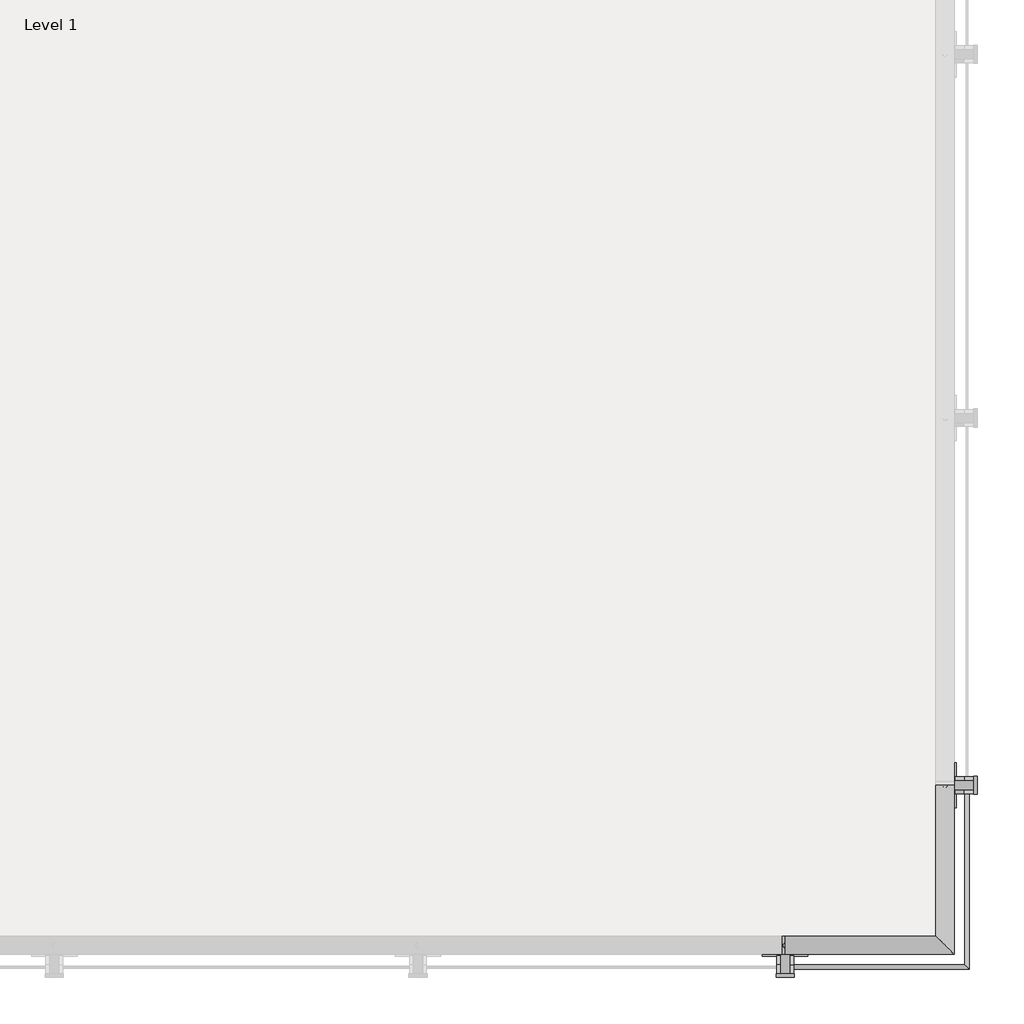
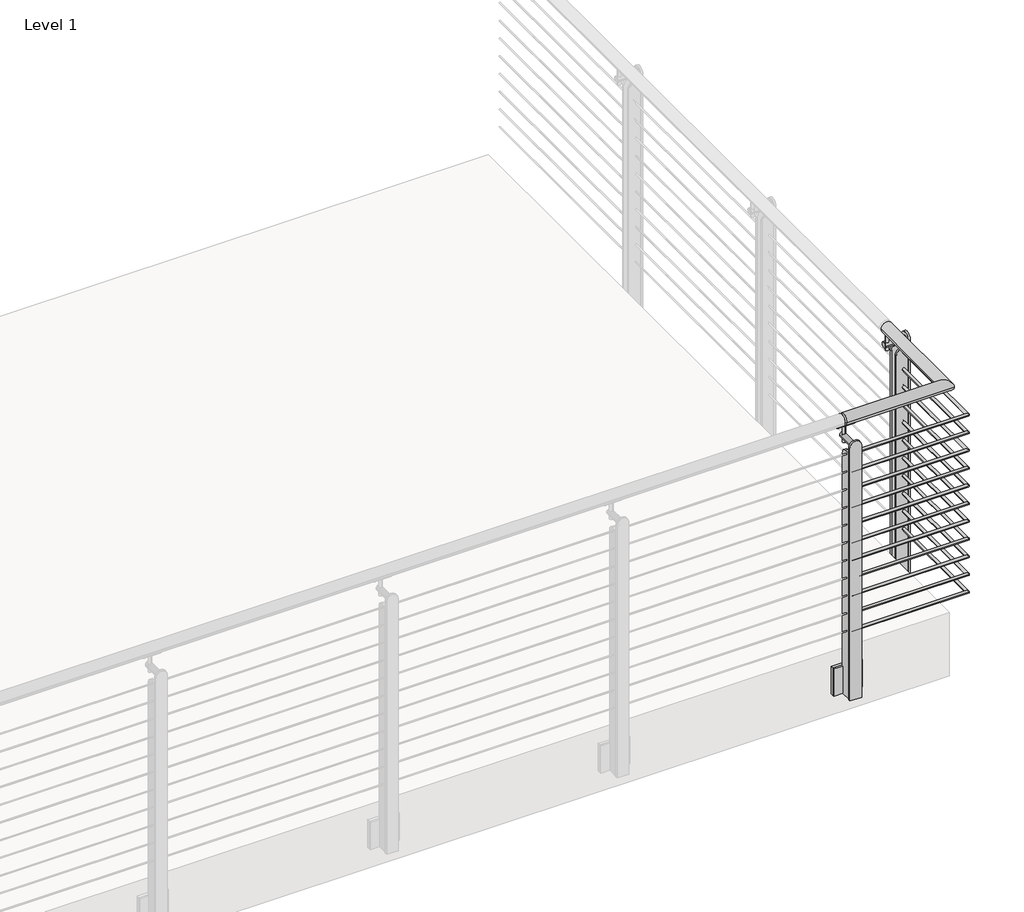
# One storey, part 2 of 9: 1 railing.
"""IFC4 building model written with IfcOpenShell, lengths in millimetres."""

from ifc_helpers import new_model, si_unit, point, frame, frame_2d, origin, place, context, project, spatial, polyline, circle_curve, ellipse_curve, trimmed, segment, composite_curve, outline, extrude, element, save
from ifc_brep_helpers import plane_surface, cylinder_surface, advanced_brep

model = new_model("IFC4")

# Units and contexts
model_context = context("Model", 3, world=origin())
ifc_project = project(units=[si_unit("LENGTHUNIT", "METRE", prefix="MILLI")], contexts=[model_context])

# Site, building, storey
site = spatial("IfcSite", under=ifc_project)
building = spatial("IfcBuilding", under=site)
storey = spatial("IfcBuildingStorey", under=building, Name="Level 1", Elevation=0.0)

# Railing
placement = place(None, origin())
element("IfcRailing", 1, ObjectType="VIVA-TEE-Cable-Fascia Mount-Corner", at=placement, inside=storey, context=model_context, shape_type="SolidModel", body=[
    advanced_brep(
    [(-5390.5882474, -57148.8734719, 1054.1), (-5390.5882474, -57199.6734719, 1054.1), (-4918.1482474, -57199.6734719, 1054.1), (-4968.9482474, -57148.8734719, 1054.1), (-5400.3174408, -57199.6734719, 1054.1), (-5400.3174408, -57148.8734719, 1054.1), (-4918.1482474, -56727.2334719, 1054.1), (-4968.9482474, -56727.2334719, 1054.1)],
    [
        (0, 1, circle_curve(frame((-5390.5882474, -57174.2734719, 1054.1), z_axis=(1.0, 0.0, 0.0), x_axis=(0.0, 1.0, 0.0)), 25.4)),
        (1, 2),
        (2, 3, ellipse_curve(frame((-4943.5482474, -57174.2734719, 1054.1), z_axis=(-0.7071067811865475, -0.7071067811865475, 0.0), x_axis=(-0.7071067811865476, 0.7071067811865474, 0.0)), 35.9210245, 25.4)),
        (3, 0),
        (1, 0, circle_curve(frame((-5390.5882474, -57174.2734719, 1054.1), z_axis=(1.0, 0.0, 0.0), x_axis=(0.0, 1.0, 0.0)), 25.4)),
        (3, 2, ellipse_curve(frame((-4943.5482474, -57174.2734719, 1054.1), z_axis=(-0.7071067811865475, -0.7071067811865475, 0.0), x_axis=(-0.7071067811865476, 0.7071067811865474, 0.0)), 35.9210245, 25.4)),
        (4, 5, circle_curve(frame((-5400.3174408, -57174.2734719, 1054.1), z_axis=(-1.0, 0.0, 0.0), x_axis=(0.0, 1.0, 0.0)), 25.4)),
        (5, 4, circle_curve(frame((-5400.3174408, -57174.2734719, 1054.1), z_axis=(-1.0, 0.0, 0.0), x_axis=(0.0, 1.0, 0.0)), 25.4)),
        (4, 1),
        (0, 5),
        (6, 7, circle_curve(frame((-4943.5482474, -56727.2334719, 1054.1), z_axis=(0.0, 1.0, 0.0), x_axis=(-1.0, 0.0, 0.0)), 25.4)),
        (7, 6, circle_curve(frame((-4943.5482474, -56727.2334719, 1054.1), z_axis=(0.0, 1.0, 0.0), x_axis=(-1.0, 0.0, 0.0)), 25.4)),
        (2, 6),
        (7, 3),
    ],
    [
        cylinder_surface(frame((-5390.5882474, -57174.2734719, 1054.1), z_axis=(-1.0, 0.0, 0.0), x_axis=(0.0, 1.0, 0.0)), 25.4),
        plane_surface(frame((-5400.3174408, -57174.2734719, 1079.5), z_axis=(-1.0, 0.0, 0.0), x_axis=(0.0, 1.0, 0.0))),
        cylinder_surface(frame((-5400.3174408, -57174.2734719, 1054.1), z_axis=(-1.0, 0.0, 0.0), x_axis=(0.0, 1.0, 0.0)), 25.4),
        plane_surface(frame((-4943.5482474, -56727.2334719, 1079.5), z_axis=(0.0, 1.0, 0.0), x_axis=(0.0, 0.0, 1.0))),
        cylinder_surface(frame((-4943.5482474, -57174.2734719, 1054.1), z_axis=(0.0, -1.0, 0.0), x_axis=(-1.0, 0.0, 0.0)), 25.4),
    ],
    [
        (0, [[1, 2, 3, 4]]),
        (0, [[5, -4, 6, -2]]),
        (1, [[7, 8]]),
        (2, [[-7, 9, -1, 10]]),
        (2, [[-8, -10, -5, -9]]),
        (3, [[11, 12]]),
        (4, [[-3, 13, -12, 14]]),
        (4, [[-6, -14, -11, -13]]),
    ],
),
    advanced_brep(
    [(-5390.5882474, -57228.8834719, 933.45), (-5390.5882474, -57241.5834719, 933.45), (-4888.9382474, -57228.8834719, 933.45), (-4876.2382474, -57241.5834719, 933.45), (-4888.9382474, -56727.2334719, 933.45), (-4876.2382474, -56727.2334719, 933.45)],
    [
        (0, 1, circle_curve(frame((-5390.5882474, -57235.2334719, 933.45), z_axis=(-1.0, 0.0, 0.0), x_axis=(0.0, -1.0, 0.0)), 6.35)),
        (1, 0, circle_curve(frame((-5390.5882474, -57235.2334719, 933.45), z_axis=(-1.0, 0.0, 0.0), x_axis=(0.0, -1.0, 0.0)), 6.35)),
        (0, 2),
        (2, 3, ellipse_curve(frame((-4882.5882474, -57235.2334719, 933.45), z_axis=(-0.7071067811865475, -0.7071067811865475, 0.0), x_axis=(-0.7071067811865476, 0.7071067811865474, 0.0)), 8.9802561, 6.35)),
        (3, 1),
        (3, 2, ellipse_curve(frame((-4882.5882474, -57235.2334719, 933.45), z_axis=(-0.7071067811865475, -0.7071067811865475, 0.0), x_axis=(-0.7071067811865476, 0.7071067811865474, 0.0)), 8.9802561, 6.35)),
        (4, 5, circle_curve(frame((-4882.5882474, -56727.2334719, 933.45), z_axis=(0.0, 1.0, 0.0), x_axis=(1.0, 0.0, 0.0)), 6.35)),
        (5, 4, circle_curve(frame((-4882.5882474, -56727.2334719, 933.45), z_axis=(0.0, 1.0, 0.0), x_axis=(1.0, 0.0, 0.0)), 6.35)),
        (2, 4),
        (5, 3),
    ],
    [
        plane_surface(frame((-5390.5882474, -57235.2334719, 939.8), z_axis=(-1.0, 0.0, 0.0), x_axis=(0.0, 1.0, 0.0))),
        cylinder_surface(frame((-5390.5882474, -57235.2334719, 933.45), z_axis=(-1.0, 0.0, 0.0), x_axis=(0.0, -1.0, 0.0)), 6.35),
        plane_surface(frame((-4882.5882474, -56727.2334719, 939.8), z_axis=(0.0, 1.0, 0.0), x_axis=(0.0, 0.0, 1.0))),
        cylinder_surface(frame((-4882.5882474, -57235.2334719, 933.45), z_axis=(0.0, -1.0, 0.0), x_axis=(1.0, 0.0, 0.0)), 6.35),
    ],
    [
        (0, [[1, 2]]),
        (1, [[-1, 3, 4, 5]]),
        (1, [[-2, -5, 6, -3]]),
        (2, [[7, 8]]),
        (3, [[-4, 9, -8, 10]]),
        (3, [[-6, -10, -7, -9]]),
    ],
),
    advanced_brep(
    [(-5390.5882474, -57228.8834719, 850.9), (-5390.5882474, -57241.5834719, 850.9), (-4888.9382474, -57228.8834719, 850.9), (-4876.2382474, -57241.5834719, 850.9), (-4888.9382474, -56727.2334719, 850.9), (-4876.2382474, -56727.2334719, 850.9)],
    [
        (0, 1, circle_curve(frame((-5390.5882474, -57235.2334719, 850.9), z_axis=(-1.0, 0.0, 0.0), x_axis=(0.0, -1.0, 0.0)), 6.35)),
        (1, 0, circle_curve(frame((-5390.5882474, -57235.2334719, 850.9), z_axis=(-1.0, 0.0, 0.0), x_axis=(0.0, -1.0, 0.0)), 6.35)),
        (0, 2),
        (2, 3, ellipse_curve(frame((-4882.5882474, -57235.2334719, 850.9), z_axis=(-0.7071067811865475, -0.7071067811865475, 0.0), x_axis=(-0.7071067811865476, 0.7071067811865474, 0.0)), 8.9802561, 6.35)),
        (3, 1),
        (3, 2, ellipse_curve(frame((-4882.5882474, -57235.2334719, 850.9), z_axis=(-0.7071067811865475, -0.7071067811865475, 0.0), x_axis=(-0.7071067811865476, 0.7071067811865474, 0.0)), 8.9802561, 6.35)),
        (4, 5, circle_curve(frame((-4882.5882474, -56727.2334719, 850.9), z_axis=(0.0, 1.0, 0.0), x_axis=(1.0, 0.0, 0.0)), 6.35)),
        (5, 4, circle_curve(frame((-4882.5882474, -56727.2334719, 850.9), z_axis=(0.0, 1.0, 0.0), x_axis=(1.0, 0.0, 0.0)), 6.35)),
        (2, 4),
        (5, 3),
    ],
    [
        plane_surface(frame((-5390.5882474, -57235.2334719, 857.25), z_axis=(-1.0, 0.0, 0.0), x_axis=(0.0, 1.0, 0.0))),
        cylinder_surface(frame((-5390.5882474, -57235.2334719, 850.9), z_axis=(-1.0, 0.0, 0.0), x_axis=(0.0, -1.0, 0.0)), 6.35),
        plane_surface(frame((-4882.5882474, -56727.2334719, 857.25), z_axis=(0.0, 1.0, 0.0), x_axis=(0.0, 0.0, 1.0))),
        cylinder_surface(frame((-4882.5882474, -57235.2334719, 850.9), z_axis=(0.0, -1.0, 0.0), x_axis=(1.0, 0.0, 0.0)), 6.35),
    ],
    [
        (0, [[1, 2]]),
        (1, [[-1, 3, 4, 5]]),
        (1, [[-2, -5, 6, -3]]),
        (2, [[7, 8]]),
        (3, [[-4, 9, -8, 10]]),
        (3, [[-6, -10, -7, -9]]),
    ],
),
    advanced_brep(
    [(-5390.5882474, -57228.8834719, 768.35), (-5390.5882474, -57241.5834719, 768.35), (-4888.9382474, -57228.8834719, 768.35), (-4876.2382474, -57241.5834719, 768.35), (-4888.9382474, -56727.2334719, 768.35), (-4876.2382474, -56727.2334719, 768.35)],
    [
        (0, 1, circle_curve(frame((-5390.5882474, -57235.2334719, 768.35), z_axis=(-1.0, 0.0, 0.0), x_axis=(0.0, -1.0, 0.0)), 6.35)),
        (1, 0, circle_curve(frame((-5390.5882474, -57235.2334719, 768.35), z_axis=(-1.0, 0.0, 0.0), x_axis=(0.0, -1.0, 0.0)), 6.35)),
        (0, 2),
        (2, 3, ellipse_curve(frame((-4882.5882474, -57235.2334719, 768.35), z_axis=(-0.7071067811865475, -0.7071067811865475, 0.0), x_axis=(-0.7071067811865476, 0.7071067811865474, 0.0)), 8.9802561, 6.35)),
        (3, 1),
        (3, 2, ellipse_curve(frame((-4882.5882474, -57235.2334719, 768.35), z_axis=(-0.7071067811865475, -0.7071067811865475, 0.0), x_axis=(-0.7071067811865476, 0.7071067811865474, 0.0)), 8.9802561, 6.35)),
        (4, 5, circle_curve(frame((-4882.5882474, -56727.2334719, 768.35), z_axis=(0.0, 1.0, 0.0), x_axis=(1.0, 0.0, 0.0)), 6.35)),
        (5, 4, circle_curve(frame((-4882.5882474, -56727.2334719, 768.35), z_axis=(0.0, 1.0, 0.0), x_axis=(1.0, 0.0, 0.0)), 6.35)),
        (2, 4),
        (5, 3),
    ],
    [
        plane_surface(frame((-5390.5882474, -57235.2334719, 774.7), z_axis=(-1.0, 0.0, 0.0), x_axis=(0.0, 1.0, 0.0))),
        cylinder_surface(frame((-5390.5882474, -57235.2334719, 768.35), z_axis=(-1.0, 0.0, 0.0), x_axis=(0.0, -1.0, 0.0)), 6.35),
        plane_surface(frame((-4882.5882474, -56727.2334719, 774.7), z_axis=(0.0, 1.0, 0.0), x_axis=(0.0, 0.0, 1.0))),
        cylinder_surface(frame((-4882.5882474, -57235.2334719, 768.35), z_axis=(0.0, -1.0, 0.0), x_axis=(1.0, 0.0, 0.0)), 6.35),
    ],
    [
        (0, [[1, 2]]),
        (1, [[-1, 3, 4, 5]]),
        (1, [[-2, -5, 6, -3]]),
        (2, [[7, 8]]),
        (3, [[-4, 9, -8, 10]]),
        (3, [[-6, -10, -7, -9]]),
    ],
),
    advanced_brep(
    [(-5390.5882474, -57228.8834719, 685.8), (-5390.5882474, -57241.5834719, 685.8), (-4888.9382474, -57228.8834719, 685.8), (-4876.2382474, -57241.5834719, 685.8), (-4888.9382474, -56727.2334719, 685.8), (-4876.2382474, -56727.2334719, 685.8)],
    [
        (0, 1, circle_curve(frame((-5390.5882474, -57235.2334719, 685.8), z_axis=(-1.0, 0.0, 0.0), x_axis=(0.0, -1.0, 0.0)), 6.35)),
        (1, 0, circle_curve(frame((-5390.5882474, -57235.2334719, 685.8), z_axis=(-1.0, 0.0, 0.0), x_axis=(0.0, -1.0, 0.0)), 6.35)),
        (0, 2),
        (2, 3, ellipse_curve(frame((-4882.5882474, -57235.2334719, 685.8), z_axis=(-0.7071067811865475, -0.7071067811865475, 0.0), x_axis=(-0.7071067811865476, 0.7071067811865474, 0.0)), 8.9802561, 6.35)),
        (3, 1),
        (3, 2, ellipse_curve(frame((-4882.5882474, -57235.2334719, 685.8), z_axis=(-0.7071067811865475, -0.7071067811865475, 0.0), x_axis=(-0.7071067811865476, 0.7071067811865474, 0.0)), 8.9802561, 6.35)),
        (4, 5, circle_curve(frame((-4882.5882474, -56727.2334719, 685.8), z_axis=(0.0, 1.0, 0.0), x_axis=(1.0, 0.0, 0.0)), 6.35)),
        (5, 4, circle_curve(frame((-4882.5882474, -56727.2334719, 685.8), z_axis=(0.0, 1.0, 0.0), x_axis=(1.0, 0.0, 0.0)), 6.35)),
        (2, 4),
        (5, 3),
    ],
    [
        plane_surface(frame((-5390.5882474, -57235.2334719, 692.15), z_axis=(-1.0, 0.0, 0.0), x_axis=(0.0, 1.0, 0.0))),
        cylinder_surface(frame((-5390.5882474, -57235.2334719, 685.8), z_axis=(-1.0, 0.0, 0.0), x_axis=(0.0, -1.0, 0.0)), 6.35),
        plane_surface(frame((-4882.5882474, -56727.2334719, 692.15), z_axis=(0.0, 1.0, 0.0), x_axis=(0.0, 0.0, 1.0))),
        cylinder_surface(frame((-4882.5882474, -57235.2334719, 685.8), z_axis=(0.0, -1.0, 0.0), x_axis=(1.0, 0.0, 0.0)), 6.35),
    ],
    [
        (0, [[1, 2]]),
        (1, [[-1, 3, 4, 5]]),
        (1, [[-2, -5, 6, -3]]),
        (2, [[7, 8]]),
        (3, [[-4, 9, -8, 10]]),
        (3, [[-6, -10, -7, -9]]),
    ],
),
    advanced_brep(
    [(-5390.5882474, -57228.8834719, 603.25), (-5390.5882474, -57241.5834719, 603.25), (-4888.9382474, -57228.8834719, 603.25), (-4876.2382474, -57241.5834719, 603.25), (-4888.9382474, -56727.2334719, 603.25), (-4876.2382474, -56727.2334719, 603.25)],
    [
        (0, 1, circle_curve(frame((-5390.5882474, -57235.2334719, 603.25), z_axis=(-1.0, 0.0, 0.0), x_axis=(0.0, -1.0, 0.0)), 6.35)),
        (1, 0, circle_curve(frame((-5390.5882474, -57235.2334719, 603.25), z_axis=(-1.0, 0.0, 0.0), x_axis=(0.0, -1.0, 0.0)), 6.35)),
        (0, 2),
        (2, 3, ellipse_curve(frame((-4882.5882474, -57235.2334719, 603.25), z_axis=(-0.7071067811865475, -0.7071067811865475, 0.0), x_axis=(-0.7071067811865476, 0.7071067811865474, 0.0)), 8.9802561, 6.35)),
        (3, 1),
        (3, 2, ellipse_curve(frame((-4882.5882474, -57235.2334719, 603.25), z_axis=(-0.7071067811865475, -0.7071067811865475, 0.0), x_axis=(-0.7071067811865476, 0.7071067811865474, 0.0)), 8.9802561, 6.35)),
        (4, 5, circle_curve(frame((-4882.5882474, -56727.2334719, 603.25), z_axis=(0.0, 1.0, 0.0), x_axis=(1.0, 0.0, 0.0)), 6.35)),
        (5, 4, circle_curve(frame((-4882.5882474, -56727.2334719, 603.25), z_axis=(0.0, 1.0, 0.0), x_axis=(1.0, 0.0, 0.0)), 6.35)),
        (2, 4),
        (5, 3),
    ],
    [
        plane_surface(frame((-5390.5882474, -57235.2334719, 609.6), z_axis=(-1.0, 0.0, 0.0), x_axis=(0.0, 1.0, 0.0))),
        cylinder_surface(frame((-5390.5882474, -57235.2334719, 603.25), z_axis=(-1.0, 0.0, 0.0), x_axis=(0.0, -1.0, 0.0)), 6.35),
        plane_surface(frame((-4882.5882474, -56727.2334719, 609.6), z_axis=(0.0, 1.0, 0.0), x_axis=(0.0, 0.0, 1.0))),
        cylinder_surface(frame((-4882.5882474, -57235.2334719, 603.25), z_axis=(0.0, -1.0, 0.0), x_axis=(1.0, 0.0, 0.0)), 6.35),
    ],
    [
        (0, [[1, 2]]),
        (1, [[-1, 3, 4, 5]]),
        (1, [[-2, -5, 6, -3]]),
        (2, [[7, 8]]),
        (3, [[-4, 9, -8, 10]]),
        (3, [[-6, -10, -7, -9]]),
    ],
),
    advanced_brep(
    [(-5390.5882474, -57228.8834719, 520.7), (-5390.5882474, -57241.5834719, 520.7), (-4888.9382474, -57228.8834719, 520.7), (-4876.2382474, -57241.5834719, 520.7), (-4888.9382474, -56727.2334719, 520.7), (-4876.2382474, -56727.2334719, 520.7)],
    [
        (0, 1, circle_curve(frame((-5390.5882474, -57235.2334719, 520.7), z_axis=(-1.0, 0.0, 0.0), x_axis=(0.0, -1.0, 0.0)), 6.35)),
        (1, 0, circle_curve(frame((-5390.5882474, -57235.2334719, 520.7), z_axis=(-1.0, 0.0, 0.0), x_axis=(0.0, -1.0, 0.0)), 6.35)),
        (0, 2),
        (2, 3, ellipse_curve(frame((-4882.5882474, -57235.2334719, 520.7), z_axis=(-0.7071067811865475, -0.7071067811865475, 0.0), x_axis=(-0.7071067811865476, 0.7071067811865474, 0.0)), 8.9802561, 6.35)),
        (3, 1),
        (3, 2, ellipse_curve(frame((-4882.5882474, -57235.2334719, 520.7), z_axis=(-0.7071067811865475, -0.7071067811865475, 0.0), x_axis=(-0.7071067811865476, 0.7071067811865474, 0.0)), 8.9802561, 6.35)),
        (4, 5, circle_curve(frame((-4882.5882474, -56727.2334719, 520.7), z_axis=(0.0, 1.0, 0.0), x_axis=(1.0, 0.0, 0.0)), 6.35)),
        (5, 4, circle_curve(frame((-4882.5882474, -56727.2334719, 520.7), z_axis=(0.0, 1.0, 0.0), x_axis=(1.0, 0.0, 0.0)), 6.35)),
        (2, 4),
        (5, 3),
    ],
    [
        plane_surface(frame((-5390.5882474, -57235.2334719, 527.05), z_axis=(-1.0, 0.0, 0.0), x_axis=(0.0, 1.0, 0.0))),
        cylinder_surface(frame((-5390.5882474, -57235.2334719, 520.7), z_axis=(-1.0, 0.0, 0.0), x_axis=(0.0, -1.0, 0.0)), 6.35),
        plane_surface(frame((-4882.5882474, -56727.2334719, 527.05), z_axis=(0.0, 1.0, 0.0), x_axis=(0.0, 0.0, 1.0))),
        cylinder_surface(frame((-4882.5882474, -57235.2334719, 520.7), z_axis=(0.0, -1.0, 0.0), x_axis=(1.0, 0.0, 0.0)), 6.35),
    ],
    [
        (0, [[1, 2]]),
        (1, [[-1, 3, 4, 5]]),
        (1, [[-2, -5, 6, -3]]),
        (2, [[7, 8]]),
        (3, [[-4, 9, -8, 10]]),
        (3, [[-6, -10, -7, -9]]),
    ],
),
    advanced_brep(
    [(-5390.5882474, -57228.8834719, 438.15), (-5390.5882474, -57241.5834719, 438.15), (-4888.9382474, -57228.8834719, 438.15), (-4876.2382474, -57241.5834719, 438.15), (-4888.9382474, -56727.2334719, 438.15), (-4876.2382474, -56727.2334719, 438.15)],
    [
        (0, 1, circle_curve(frame((-5390.5882474, -57235.2334719, 438.15), z_axis=(-1.0, 0.0, 0.0), x_axis=(0.0, -1.0, 0.0)), 6.35)),
        (1, 0, circle_curve(frame((-5390.5882474, -57235.2334719, 438.15), z_axis=(-1.0, 0.0, 0.0), x_axis=(0.0, -1.0, 0.0)), 6.35)),
        (0, 2),
        (2, 3, ellipse_curve(frame((-4882.5882474, -57235.2334719, 438.15), z_axis=(-0.7071067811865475, -0.7071067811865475, 0.0), x_axis=(-0.7071067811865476, 0.7071067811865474, 0.0)), 8.9802561, 6.35)),
        (3, 1),
        (3, 2, ellipse_curve(frame((-4882.5882474, -57235.2334719, 438.15), z_axis=(-0.7071067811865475, -0.7071067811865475, 0.0), x_axis=(-0.7071067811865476, 0.7071067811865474, 0.0)), 8.9802561, 6.35)),
        (4, 5, circle_curve(frame((-4882.5882474, -56727.2334719, 438.15), z_axis=(0.0, 1.0, 0.0), x_axis=(1.0, 0.0, 0.0)), 6.35)),
        (5, 4, circle_curve(frame((-4882.5882474, -56727.2334719, 438.15), z_axis=(0.0, 1.0, 0.0), x_axis=(1.0, 0.0, 0.0)), 6.35)),
        (2, 4),
        (5, 3),
    ],
    [
        plane_surface(frame((-5390.5882474, -57235.2334719, 444.5), z_axis=(-1.0, 0.0, 0.0), x_axis=(0.0, 1.0, 0.0))),
        cylinder_surface(frame((-5390.5882474, -57235.2334719, 438.15), z_axis=(-1.0, 0.0, 0.0), x_axis=(0.0, -1.0, 0.0)), 6.35),
        plane_surface(frame((-4882.5882474, -56727.2334719, 444.5), z_axis=(0.0, 1.0, 0.0), x_axis=(0.0, 0.0, 1.0))),
        cylinder_surface(frame((-4882.5882474, -57235.2334719, 438.15), z_axis=(0.0, -1.0, 0.0), x_axis=(1.0, 0.0, 0.0)), 6.35),
    ],
    [
        (0, [[1, 2]]),
        (1, [[-1, 3, 4, 5]]),
        (1, [[-2, -5, 6, -3]]),
        (2, [[7, 8]]),
        (3, [[-4, 9, -8, 10]]),
        (3, [[-6, -10, -7, -9]]),
    ],
),
    advanced_brep(
    [(-5390.5882474, -57228.8834719, 355.6), (-5390.5882474, -57241.5834719, 355.6), (-4888.9382474, -57228.8834719, 355.6), (-4876.2382474, -57241.5834719, 355.6), (-4888.9382474, -56727.2334719, 355.6), (-4876.2382474, -56727.2334719, 355.6)],
    [
        (0, 1, circle_curve(frame((-5390.5882474, -57235.2334719, 355.6), z_axis=(-1.0, 0.0, 0.0), x_axis=(0.0, -1.0, 0.0)), 6.35)),
        (1, 0, circle_curve(frame((-5390.5882474, -57235.2334719, 355.6), z_axis=(-1.0, 0.0, 0.0), x_axis=(0.0, -1.0, 0.0)), 6.35)),
        (0, 2),
        (2, 3, ellipse_curve(frame((-4882.5882474, -57235.2334719, 355.6), z_axis=(-0.7071067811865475, -0.7071067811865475, 0.0), x_axis=(-0.7071067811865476, 0.7071067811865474, 0.0)), 8.9802561, 6.35)),
        (3, 1),
        (3, 2, ellipse_curve(frame((-4882.5882474, -57235.2334719, 355.6), z_axis=(-0.7071067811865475, -0.7071067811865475, 0.0), x_axis=(-0.7071067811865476, 0.7071067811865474, 0.0)), 8.9802561, 6.35)),
        (4, 5, circle_curve(frame((-4882.5882474, -56727.2334719, 355.6), z_axis=(0.0, 1.0, 0.0), x_axis=(1.0, 0.0, 0.0)), 6.35)),
        (5, 4, circle_curve(frame((-4882.5882474, -56727.2334719, 355.6), z_axis=(0.0, 1.0, 0.0), x_axis=(1.0, 0.0, 0.0)), 6.35)),
        (2, 4),
        (5, 3),
    ],
    [
        plane_surface(frame((-5390.5882474, -57235.2334719, 361.95), z_axis=(-1.0, 0.0, 0.0), x_axis=(0.0, 1.0, 0.0))),
        cylinder_surface(frame((-5390.5882474, -57235.2334719, 355.6), z_axis=(-1.0, 0.0, 0.0), x_axis=(0.0, -1.0, 0.0)), 6.35),
        plane_surface(frame((-4882.5882474, -56727.2334719, 361.95), z_axis=(0.0, 1.0, 0.0), x_axis=(0.0, 0.0, 1.0))),
        cylinder_surface(frame((-4882.5882474, -57235.2334719, 355.6), z_axis=(0.0, -1.0, 0.0), x_axis=(1.0, 0.0, 0.0)), 6.35),
    ],
    [
        (0, [[1, 2]]),
        (1, [[-1, 3, 4, 5]]),
        (1, [[-2, -5, 6, -3]]),
        (2, [[7, 8]]),
        (3, [[-4, 9, -8, 10]]),
        (3, [[-6, -10, -7, -9]]),
    ],
),
    advanced_brep(
    [(-5390.5882474, -57228.8834719, 273.05), (-5390.5882474, -57241.5834719, 273.05), (-4888.9382474, -57228.8834719, 273.05), (-4876.2382474, -57241.5834719, 273.05), (-4888.9382474, -56727.2334719, 273.05), (-4876.2382474, -56727.2334719, 273.05)],
    [
        (0, 1, circle_curve(frame((-5390.5882474, -57235.2334719, 273.05), z_axis=(-1.0, 0.0, 0.0), x_axis=(0.0, -1.0, 0.0)), 6.35)),
        (1, 0, circle_curve(frame((-5390.5882474, -57235.2334719, 273.05), z_axis=(-1.0, 0.0, 0.0), x_axis=(0.0, -1.0, 0.0)), 6.35)),
        (0, 2),
        (2, 3, ellipse_curve(frame((-4882.5882474, -57235.2334719, 273.05), z_axis=(-0.7071067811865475, -0.7071067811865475, 0.0), x_axis=(-0.7071067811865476, 0.7071067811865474, 0.0)), 8.9802561, 6.35)),
        (3, 1),
        (3, 2, ellipse_curve(frame((-4882.5882474, -57235.2334719, 273.05), z_axis=(-0.7071067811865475, -0.7071067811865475, 0.0), x_axis=(-0.7071067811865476, 0.7071067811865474, 0.0)), 8.9802561, 6.35)),
        (4, 5, circle_curve(frame((-4882.5882474, -56727.2334719, 273.05), z_axis=(0.0, 1.0, 0.0), x_axis=(1.0, 0.0, 0.0)), 6.35)),
        (5, 4, circle_curve(frame((-4882.5882474, -56727.2334719, 273.05), z_axis=(0.0, 1.0, 0.0), x_axis=(1.0, 0.0, 0.0)), 6.35)),
        (2, 4),
        (5, 3),
    ],
    [
        plane_surface(frame((-5390.5882474, -57235.2334719, 279.4), z_axis=(-1.0, 0.0, 0.0), x_axis=(0.0, 1.0, 0.0))),
        cylinder_surface(frame((-5390.5882474, -57235.2334719, 273.05), z_axis=(-1.0, 0.0, 0.0), x_axis=(0.0, -1.0, 0.0)), 6.35),
        plane_surface(frame((-4882.5882474, -56727.2334719, 279.4), z_axis=(0.0, 1.0, 0.0), x_axis=(0.0, 0.0, 1.0))),
        cylinder_surface(frame((-4882.5882474, -57235.2334719, 273.05), z_axis=(0.0, -1.0, 0.0), x_axis=(1.0, 0.0, 0.0)), 6.35),
    ],
    [
        (0, [[1, 2]]),
        (1, [[-1, 3, 4, 5]]),
        (1, [[-2, -5, 6, -3]]),
        (2, [[7, 8]]),
        (3, [[-4, 9, -8, 10]]),
        (3, [[-6, -10, -7, -9]]),
    ],
),
    advanced_brep(
    [(-5390.5882474, -57228.8834719, 190.5), (-5390.5882474, -57241.5834719, 190.5), (-4888.9382474, -57228.8834719, 190.5), (-4876.2382474, -57241.5834719, 190.5), (-4888.9382474, -56727.2334719, 190.5), (-4876.2382474, -56727.2334719, 190.5)],
    [
        (0, 1, circle_curve(frame((-5390.5882474, -57235.2334719, 190.5), z_axis=(-1.0, 0.0, 0.0), x_axis=(0.0, -1.0, 0.0)), 6.35)),
        (1, 0, circle_curve(frame((-5390.5882474, -57235.2334719, 190.5), z_axis=(-1.0, 0.0, 0.0), x_axis=(0.0, -1.0, 0.0)), 6.35)),
        (0, 2),
        (2, 3, ellipse_curve(frame((-4882.5882474, -57235.2334719, 190.5), z_axis=(-0.7071067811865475, -0.7071067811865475, 0.0), x_axis=(-0.7071067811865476, 0.7071067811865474, 0.0)), 8.9802561, 6.35)),
        (3, 1),
        (3, 2, ellipse_curve(frame((-4882.5882474, -57235.2334719, 190.5), z_axis=(-0.7071067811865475, -0.7071067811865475, 0.0), x_axis=(-0.7071067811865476, 0.7071067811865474, 0.0)), 8.9802561, 6.35)),
        (4, 5, circle_curve(frame((-4882.5882474, -56727.2334719, 190.5), z_axis=(0.0, 1.0, 0.0), x_axis=(1.0, 0.0, 0.0)), 6.35)),
        (5, 4, circle_curve(frame((-4882.5882474, -56727.2334719, 190.5), z_axis=(0.0, 1.0, 0.0), x_axis=(1.0, 0.0, 0.0)), 6.35)),
        (2, 4),
        (5, 3),
    ],
    [
        plane_surface(frame((-5390.5882474, -57235.2334719, 196.85), z_axis=(-1.0, 0.0, 0.0), x_axis=(0.0, 1.0, 0.0))),
        cylinder_surface(frame((-5390.5882474, -57235.2334719, 190.5), z_axis=(-1.0, 0.0, 0.0), x_axis=(0.0, -1.0, 0.0)), 6.35),
        plane_surface(frame((-4882.5882474, -56727.2334719, 196.85), z_axis=(0.0, 1.0, 0.0), x_axis=(0.0, 0.0, 1.0))),
        cylinder_surface(frame((-4882.5882474, -57235.2334719, 190.5), z_axis=(0.0, -1.0, 0.0), x_axis=(1.0, 0.0, 0.0)), 6.35),
    ],
    [
        (0, [[1, 2]]),
        (1, [[-1, 3, 4, 5]]),
        (1, [[-2, -5, 6, -3]]),
        (2, [[7, 8]]),
        (3, [[-4, 9, -8, 10]]),
        (3, [[-6, -10, -7, -9]]),
    ],
),
    advanced_brep(
    [(-5390.5882474, -57228.8834719, 107.95), (-5390.5882474, -57241.5834719, 107.95), (-4888.9382474, -57228.8834719, 107.95), (-4876.2382474, -57241.5834719, 107.95), (-4888.9382474, -56727.2334719, 107.95), (-4876.2382474, -56727.2334719, 107.95)],
    [
        (0, 1, circle_curve(frame((-5390.5882474, -57235.2334719, 107.95), z_axis=(-1.0, 0.0, 0.0), x_axis=(0.0, -1.0, 0.0)), 6.35)),
        (1, 0, circle_curve(frame((-5390.5882474, -57235.2334719, 107.95), z_axis=(-1.0, 0.0, 0.0), x_axis=(0.0, -1.0, 0.0)), 6.35)),
        (0, 2),
        (2, 3, ellipse_curve(frame((-4882.5882474, -57235.2334719, 107.95), z_axis=(-0.7071067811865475, -0.7071067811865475, 0.0), x_axis=(-0.7071067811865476, 0.7071067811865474, 0.0)), 8.9802561, 6.35)),
        (3, 1),
        (3, 2, ellipse_curve(frame((-4882.5882474, -57235.2334719, 107.95), z_axis=(-0.7071067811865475, -0.7071067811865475, 0.0), x_axis=(-0.7071067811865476, 0.7071067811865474, 0.0)), 8.9802561, 6.35)),
        (4, 5, circle_curve(frame((-4882.5882474, -56727.2334719, 107.95), z_axis=(0.0, 1.0, 0.0), x_axis=(1.0, 0.0, 0.0)), 6.35)),
        (5, 4, circle_curve(frame((-4882.5882474, -56727.2334719, 107.95), z_axis=(0.0, 1.0, 0.0), x_axis=(1.0, 0.0, 0.0)), 6.35)),
        (2, 4),
        (5, 3),
    ],
    [
        plane_surface(frame((-5390.5882474, -57235.2334719, 114.3), z_axis=(-1.0, 0.0, 0.0), x_axis=(0.0, 1.0, 0.0))),
        cylinder_surface(frame((-5390.5882474, -57235.2334719, 107.95), z_axis=(-1.0, 0.0, 0.0), x_axis=(0.0, -1.0, 0.0)), 6.35),
        plane_surface(frame((-4882.5882474, -56727.2334719, 114.3), z_axis=(0.0, 1.0, 0.0), x_axis=(0.0, 0.0, 1.0))),
        cylinder_surface(frame((-4882.5882474, -57235.2334719, 107.95), z_axis=(0.0, -1.0, 0.0), x_axis=(1.0, 0.0, 0.0)), 6.35),
    ],
    [
        (0, [[1, 2]]),
        (1, [[-1, 3, 4, 5]]),
        (1, [[-2, -5, 6, -3]]),
        (2, [[7, 8]]),
        (3, [[-4, 9, -8, 10]]),
        (3, [[-6, -10, -7, -9]]),
    ],
),
    extrude(outline(composite_curve([segment(trimmed(circle_curve(frame_2d((0.0, 7.0)), 7.0), [point((0.0, 14.0))], [point((0.0, 0.0))], False, "CARTESIAN"), True, "CONTINUOUS"), segment(trimmed(circle_curve(frame_2d((0.0, 7.0)), 7.0), [point((0.0, 0.0))], [point((0.0, 14.0))], False, "CARTESIAN"), True, "CONTINUOUS")], self_intersect=False)), frame((-4936.2033936, -56727.159762, 949.1832524), z_axis=(0.0, 0.004253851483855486, 0.9999909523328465), x_axis=(0.0, 0.9999909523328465, -0.004253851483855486)), (0.0, 0.0, 1.0), 75.97),
    extrude(outline(composite_curve([segment(trimmed(circle_curve(frame_2d((1047.2025651, -4943.3447976)), 19.05), [point((1033.7916463, -4929.8152094))], [point((1033.7916463, -4956.8743858))], True, "CARTESIAN"), True, "CONTINUOUS"), segment(polyline([(1033.7916463, -4956.8743858), (1032.7742593, -4957.9007754)]), True, "CONTINUOUS"), segment(trimmed(circle_curve(frame_2d((1031.7089374, -4956.8447976)), 1.5), [point((1032.7742593, -4957.9007754))], [point((1030.5780156, -4957.8301991))], False, "CARTESIAN"), True, "CONTINUOUS"), segment(trimmed(circle_curve(frame_2d((1047.2025651, -4943.3447976)), 22.05), [point((1030.5780156, -4957.8301991))], [point((1030.5780156, -4928.8593961))], False, "CARTESIAN"), True, "CONTINUOUS"), segment(trimmed(circle_curve(frame_2d((1031.7089374, -4929.8447976)), 1.5), [point((1030.5780156, -4928.8593961))], [point((1032.7742593, -4928.7888197))], False, "CARTESIAN"), True, "CONTINUOUS"), segment(polyline([(1032.7742593, -4928.7888197), (1033.7916463, -4929.8152094)]), True, "CONTINUOUS")], self_intersect=False)), frame((0.0, -56762.6982361, 0.0), z_axis=(0.0, 1.0, 0.0), x_axis=(0.0, 0.0, 1.0)), (0.0, 0.0, 1.0), 74.5229187),
    extrude(outline(composite_curve([segment(trimmed(circle_curve(frame_2d((-56726.9554315, 976.1259188)), 12.5), [point((-56739.4554315, 976.1259188))], [point((-56714.4554315, 976.1259188))], False, "CARTESIAN"), True, "CONTINUOUS"), segment(trimmed(circle_curve(frame_2d((-56726.9554315, 976.1259188)), 12.5), [point((-56714.4554315, 976.1259188))], [point((-56739.4554315, 976.1259188))], False, "CARTESIAN"), True, "CONTINUOUS")], self_intersect=False)), frame((-4955.8604076, 0.0, 0.0), z_axis=(1.0, 0.0, 0.0), x_axis=(0.0, 1.0, 0.0)), (0.0, 0.0, 1.0), 92.423),
    extrude(outline(polyline([(-4933.3882474, -56663.3365969), (-4920.5057958, -56663.3365969), (-4920.5057958, -56790.3365969), (-4933.3882474, -56790.3365969), (-4933.3882474, -56663.3365969)])), frame((0.0, 0.0, -196.85), z_axis=(0.0, 0.0, 1.0), x_axis=(1.0, 0.0, 0.0)), (0.0, 0.0, 1.0), 127.0),
    extrude(outline(composite_curve([segment(trimmed(circle_curve(frame_2d((924.2425, -4889.6036989)), 24.765), [point((949.0075, -4889.6036989))], [point((924.2425, -4914.3686989))], False, "CARTESIAN"), True, "CONTINUOUS"), segment(polyline([(924.2425, -4914.3686989), (-196.85, -4914.3686989), (-196.85, -4863.5382474), (949.0075, -4863.5382474), (949.0075, -4889.6036989)]), True, "CONTINUOUS")], self_intersect=False)), frame((0.0, -56712.8330973, 0.0), z_axis=(0.0, 1.0, 0.0), x_axis=(0.0, 0.0, 1.0)), (0.0, 0.0, 1.0), 9.525),
    extrude(outline(polyline([(-4920.5057958, -56722.0740969), (-4920.5057958, -56663.3365969), (-4912.5682958, -56663.3365969), (-4912.5682958, -56714.1365969), (-4863.5382474, -56714.1365969), (-4863.5382474, -56722.0740969), (-4920.5057958, -56722.0740969)])), frame((0.0, 0.0, -196.85), z_axis=(0.0, 0.0, 1.0), x_axis=(1.0, 0.0, 0.0)), (0.0, 0.0, 1.0), 127.0),
    extrude(outline(polyline([(-4920.5057958, -56731.5990969), (-4863.5382474, -56731.5990969), (-4863.5382474, -56739.5365969), (-4912.5682958, -56739.5365969), (-4912.5682958, -56790.3365969), (-4920.5057958, -56790.3365969), (-4920.5057958, -56731.5990969)])), frame((0.0, 0.0, -196.85), z_axis=(0.0, 0.0, 1.0), x_axis=(1.0, 0.0, 0.0)), (0.0, 0.0, 1.0), 127.0),
    extrude(outline(composite_curve([segment(polyline([(-56701.4365969, -196.85), (-56752.2365969, -196.85), (-56752.2365969, 979.17)]), True, "CONTINUOUS"), segment(trimmed(circle_curve(frame_2d((-56726.8365969, 979.17)), 25.4), [point((-56752.2365969, 979.17))], [point((-56701.4365969, 979.17))], False, "CARTESIAN"), True, "CONTINUOUS"), segment(polyline([(-56701.4365969, 979.17), (-56701.4365969, -196.85)]), True, "CONTINUOUS")], self_intersect=False)), frame((-4863.5382474, 0.0, 0.0), z_axis=(1.0, 0.0, 0.0), x_axis=(0.0, 1.0, 0.0)), (0.0, 0.0, 1.0), 9.525),
    extrude(outline(composite_curve([segment(trimmed(circle_curve(frame_2d((924.2425, -4889.6036989)), 24.765), [point((949.0075, -4889.6036989))], [point((924.2425, -4914.3686989))], False, "CARTESIAN"), True, "CONTINUOUS"), segment(polyline([(924.2425, -4914.3686989), (-196.85, -4914.3686989), (-196.85, -4863.5382474), (949.0075, -4863.5382474), (949.0075, -4889.6036989)]), True, "CONTINUOUS")], self_intersect=False)), frame((0.0, -56750.3650964, 0.0), z_axis=(0.0, 1.0, 0.0), x_axis=(0.0, 0.0, 1.0)), (0.0, 0.0, 1.0), 9.525),
    extrude(outline(composite_curve([segment(trimmed(circle_curve(frame_2d((0.0, 7.0)), 7.0), [point((0.0, 14.0))], [point((0.0, 0.0))], False, "CARTESIAN"), True, "CONTINUOUS"), segment(trimmed(circle_curve(frame_2d((0.0, 7.0)), 7.0), [point((0.0, 0.0))], [point((0.0, 14.0))], False, "CARTESIAN"), True, "CONTINUOUS")], self_intersect=False)), frame((-5390.5145375, -57181.6183256, 949.1832524), z_axis=(0.004253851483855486, 0.0, 0.9999909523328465), x_axis=(0.9999909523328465, 0.0, -0.004253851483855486)), (0.0, 0.0, 1.0), 75.97),
    extrude(outline(composite_curve([segment(trimmed(circle_curve(frame_2d((-57174.4769216, 1047.2025651)), 19.05), [point((-57188.0065099, 1033.7916463))], [point((-57160.9473334, 1033.7916463))], True, "CARTESIAN"), True, "CONTINUOUS"), segment(polyline([(-57160.9473334, 1033.7916463), (-57159.9209438, 1032.7742593)]), True, "CONTINUOUS"), segment(trimmed(circle_curve(frame_2d((-57160.9769216, 1031.7089374)), 1.5), [point((-57159.9209438, 1032.7742593))], [point((-57159.9915202, 1030.5780156))], False, "CARTESIAN"), True, "CONTINUOUS"), segment(trimmed(circle_curve(frame_2d((-57174.4769216, 1047.2025651)), 22.05), [point((-57159.9915202, 1030.5780156))], [point((-57188.9623231, 1030.5780156))], False, "CARTESIAN"), True, "CONTINUOUS"), segment(trimmed(circle_curve(frame_2d((-57187.9769216, 1031.7089374)), 1.5), [point((-57188.9623231, 1030.5780156))], [point((-57189.0328995, 1032.7742593))], False, "CARTESIAN"), True, "CONTINUOUS"), segment(polyline([(-57189.0328995, 1032.7742593), (-57188.0065099, 1033.7916463)]), True, "CONTINUOUS")], self_intersect=False)), frame((-5426.0530116, 0.0, 0.0), z_axis=(1.0, 0.0, 0.0), x_axis=(0.0, 1.0, 0.0)), (0.0, 0.0, 1.0), 74.5229187),
    extrude(outline(composite_curve([segment(trimmed(circle_curve(frame_2d((976.1259188, -5390.310207)), 12.5), [point((976.1259188, -5402.810207))], [point((976.1259188, -5377.810207))], False, "CARTESIAN"), True, "CONTINUOUS"), segment(trimmed(circle_curve(frame_2d((976.1259188, -5390.310207)), 12.5), [point((976.1259188, -5377.810207))], [point((976.1259188, -5402.810207))], False, "CARTESIAN"), True, "CONTINUOUS")], self_intersect=False)), frame((0.0, -57254.3843116, 0.0), z_axis=(0.0, 1.0, 0.0), x_axis=(0.0, 0.0, 1.0)), (0.0, 0.0, 1.0), 92.423),
    extrude(outline(polyline([(-5326.6913724, -57184.4334719), (-5326.6913724, -57197.3159234), (-5453.6913724, -57197.3159234), (-5453.6913724, -57184.4334719), (-5326.6913724, -57184.4334719)])), frame((0.0, 0.0, -196.85), z_axis=(0.0, 0.0, 1.0), x_axis=(1.0, 0.0, 0.0)), (0.0, 0.0, 1.0), 127.0),
    extrude(outline(composite_curve([segment(trimmed(circle_curve(frame_2d((-57228.2180203, 924.2425)), 24.765), [point((-57228.2180203, 949.0075))], [point((-57203.4530203, 924.2425))], False, "CARTESIAN"), True, "CONTINUOUS"), segment(polyline([(-57203.4530203, 924.2425), (-57203.4530203, -196.85), (-57254.2834719, -196.85), (-57254.2834719, 949.0075), (-57228.2180203, 949.0075)]), True, "CONTINUOUS")], self_intersect=False)), frame((-5376.1878728, 0.0, 0.0), z_axis=(1.0, 0.0, 0.0), x_axis=(0.0, 1.0, 0.0)), (0.0, 0.0, 1.0), 9.525),
    extrude(outline(polyline([(-5385.4288724, -57197.3159234), (-5326.6913724, -57197.3159234), (-5326.6913724, -57205.2534234), (-5377.4913724, -57205.2534234), (-5377.4913724, -57254.2834719), (-5385.4288724, -57254.2834719), (-5385.4288724, -57197.3159234)])), frame((0.0, 0.0, -196.85), z_axis=(0.0, 0.0, 1.0), x_axis=(1.0, 0.0, 0.0)), (0.0, 0.0, 1.0), 127.0),
    extrude(outline(polyline([(-5394.9538724, -57197.3159234), (-5394.9538724, -57254.2834719), (-5402.8913724, -57254.2834719), (-5402.8913724, -57205.2534234), (-5453.6913724, -57205.2534234), (-5453.6913724, -57197.3159234), (-5394.9538724, -57197.3159234)])), frame((0.0, 0.0, -196.85), z_axis=(0.0, 0.0, 1.0), x_axis=(1.0, 0.0, 0.0)), (0.0, 0.0, 1.0), 127.0),
    extrude(outline(composite_curve([segment(polyline([(-196.85, -5364.7913724), (979.17, -5364.7913724)]), True, "CONTINUOUS"), segment(trimmed(circle_curve(frame_2d((979.17, -5390.1913724)), 25.4), [point((979.17, -5364.7913724))], [point((979.17, -5415.5913724))], False, "CARTESIAN"), True, "CONTINUOUS"), segment(polyline([(979.17, -5415.5913724), (-196.85, -5415.5913724), (-196.85, -5364.7913724)]), True, "CONTINUOUS")], self_intersect=False)), frame((0.0, -57263.8084719, 0.0), z_axis=(0.0, 1.0, 0.0), x_axis=(0.0, 0.0, 1.0)), (0.0, 0.0, 1.0), 9.525),
    extrude(outline(composite_curve([segment(trimmed(circle_curve(frame_2d((-57228.2180203, 924.2425)), 24.765), [point((-57228.2180203, 949.0075))], [point((-57203.4530203, 924.2425))], False, "CARTESIAN"), True, "CONTINUOUS"), segment(polyline([(-57203.4530203, 924.2425), (-57203.4530203, -196.85), (-57254.2834719, -196.85), (-57254.2834719, 949.0075), (-57228.2180203, 949.0075)]), True, "CONTINUOUS")], self_intersect=False)), frame((-5413.7198719, 0.0, 0.0), z_axis=(1.0, 0.0, 0.0), x_axis=(0.0, 1.0, 0.0)), (0.0, 0.0, 1.0), 9.525),
])

save(model, "model.ifc")
